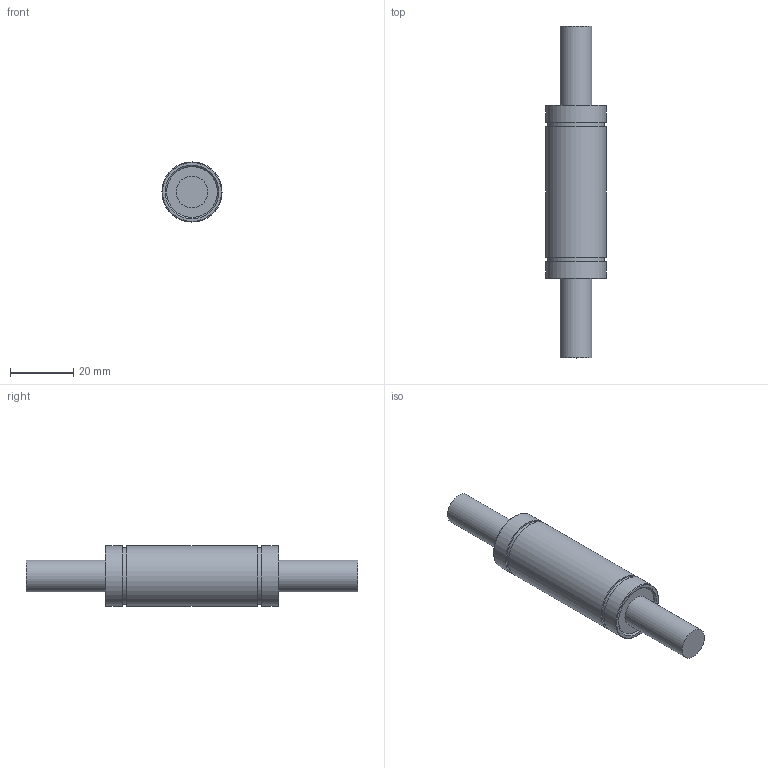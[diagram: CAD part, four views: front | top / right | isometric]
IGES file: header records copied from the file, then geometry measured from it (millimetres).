
Global section: file name: No Iges File Name specified; native system: Autodesk Inventor 2012; preprocessor: AutoDesk Inventor Iges Exporter R2012; author: user2; date: 20130206.102030; units: millimetre
Bounding box: 19 x 105 x 19 mm (x, y, z)
Volume: 19284.6 mm3; surface area: 5587.8 mm2
Topology: 1 solids, 1 shells, 23 faces, 37 edges, 24 vertices
Faces by surface type: plane 10, cylinder 7, revolution 4, torus 2
Full cylindrical faces by diameter (mm): 10 x2, 18 x2, 19 x3
